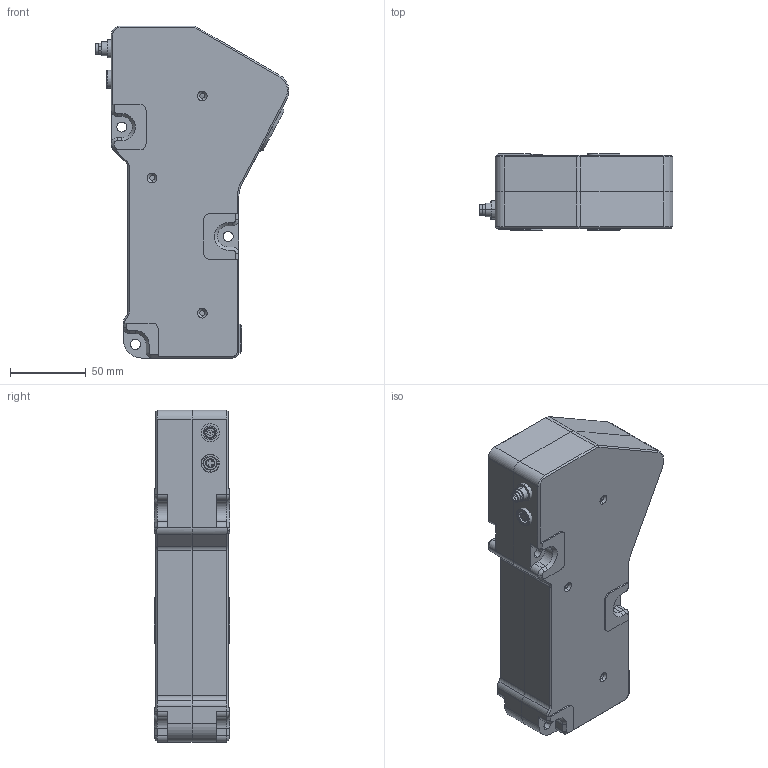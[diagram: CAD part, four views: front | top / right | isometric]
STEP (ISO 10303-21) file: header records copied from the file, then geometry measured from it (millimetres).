
FILE_DESCRIPTION (( 'STEP AP203' ), '1' );
FILE_NAME ('ÐÔ 625-165_300.STEP', '2014-04-24T12:47:05', ( 'Serg' ), ( '' ), 'SwSTEP 2.0', 'SolidWorks 2012', '' );
FILE_SCHEMA (( 'CONFIG_CONTROL_DESIGN' ));
Length unit declared in the file: millimetre
Products named in the file (10): RF 620.00.001-Ï-Êîðïóñ _ Íîâàÿ ýëåêòðîíèêà; RF 620.28._Ðàìêà îêíà1; RF049.00_Ðàìêà îêíà2; Okno_BB; 吾牝桠; 俶 625-165_300; RF049.028_栺樏鋋; Raz_09_0412_80_04; Raz_09_0427_80_08; RF 620.00.002-Ï-Êðûøêà_íîâàÿ ýëåêòðîíèêà
Assembly tree (9 placements, depth 2):
  俶 625-165_300
    吾牝桠
    Okno_BB
    RF049.00_Ðàìêà îêíà2
    RF 620.28._Ðàìêà îêíà1
    RF 620.00.001-Ï-Êîðïóñ _ Íîâàÿ ýëåêòðîíèêà
    RF 620.00.002-Ï-Êðûøêà_íîâàÿ ýëåêòðîíèêà
    Raz_09_0427_80_08
    Raz_09_0412_80_04
    RF049.028_栺樏鋋
Bounding box: 127.5 x 50 x 218.5 mm (x, y, z)
Volume: 247928.3 mm3; surface area: 147453.7 mm2
Topology: 9 solids, 9 shells, 965 faces, 2416 edges, 1536 vertices
Faces by surface type: plane 437, cylinder 397, cone 123, torus 8
Entity records: 30244 total; most frequent: CARTESIAN_POINT 5284, DIRECTION 5259, ORIENTED_EDGE 4832, EDGE_CURVE 2416, AXIS2_PLACEMENT_3D 1915, VERTEX_POINT 1536, VECTOR 1429, LINE 1429
